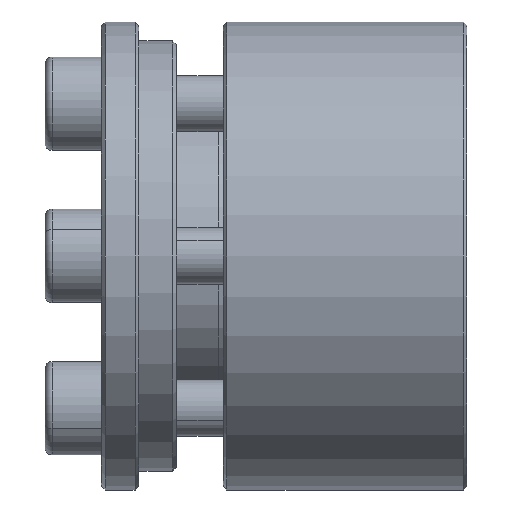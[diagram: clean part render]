
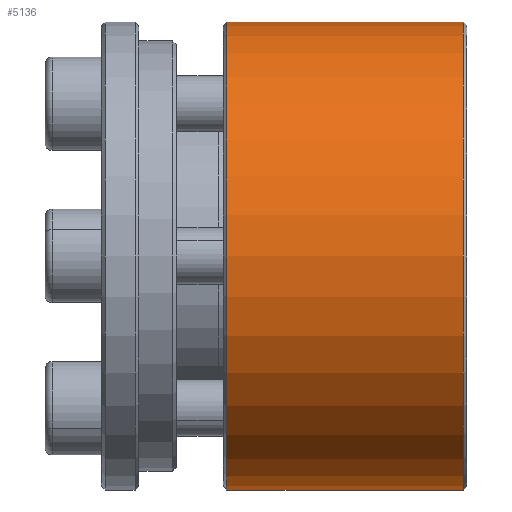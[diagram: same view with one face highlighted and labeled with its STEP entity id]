
A CAD part, front view. The second image highlights one B-rep face of the part: STEP entity #5136.
In plain terms, the highlighted cylindrical face has radius 24.96 mm (diameter 49.92 mm), a partial arc.
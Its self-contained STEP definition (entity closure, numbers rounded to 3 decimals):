
#437 = DIRECTION ( 'NONE',  ( -1., 0., 0. ) ) ;
#460 = ORIENTED_EDGE ( 'NONE', *, *, #4682, .T. ) ;
#1176 = CYLINDRICAL_SURFACE ( 'NONE', #6825, 24.96 ) ;
#1383 = EDGE_LOOP ( 'NONE', ( #5397, #2042, #460, #4213 ) ) ;
#1529 = EDGE_CURVE ( 'NONE', #3599, #4381, #6051, .T. ) ;
#1826 = CARTESIAN_POINT ( 'NONE',  ( -92.766, 26.04, 24.96 ) ) ;
#2042 = ORIENTED_EDGE ( 'NONE', *, *, #2163, .T. ) ;
#2163 = EDGE_CURVE ( 'NONE', #2642, #3507, #2384, .T. ) ;
#2178 = CARTESIAN_POINT ( 'NONE',  ( -67.166, 26.04, 0. ) ) ;
#2384 = CIRCLE ( 'NONE', #2964, 24.96 ) ;
#2518 = CARTESIAN_POINT ( 'NONE',  ( -67.166, 26.04, 24.96 ) ) ;
#2642 = VERTEX_POINT ( 'NONE', #3897 ) ;
#2694 = DIRECTION ( 'NONE',  ( 0., 0., 1. ) ) ;
#2949 = VECTOR ( 'NONE', #3382, 1000. ) ;
#2964 = AXIS2_PLACEMENT_3D ( 'NONE', #2178, #7093, #2694 ) ;
#2975 = CARTESIAN_POINT ( 'NONE',  ( -92.366, 26.04, 0. ) ) ;
#3193 = AXIS2_PLACEMENT_3D ( 'NONE', #2975, #4134, #6317 ) ;
#3339 = DIRECTION ( 'NONE',  ( 0., 0., 1. ) ) ;
#3382 = DIRECTION ( 'NONE',  ( -1., 0., 0. ) ) ;
#3507 = VERTEX_POINT ( 'NONE', #2518 ) ;
#3599 = VERTEX_POINT ( 'NONE', #6034 ) ;
#3897 = CARTESIAN_POINT ( 'NONE',  ( -67.166, 26.04, -24.96 ) ) ;
#4134 = DIRECTION ( 'NONE',  ( 1., 0., 0. ) ) ;
#4213 = ORIENTED_EDGE ( 'NONE', *, *, #1529, .T. ) ;
#4381 = VERTEX_POINT ( 'NONE', #6346 ) ;
#4407 = FACE_OUTER_BOUND ( 'NONE', #1383, .T. ) ;
#4682 = EDGE_CURVE ( 'NONE', #3507, #3599, #5602, .T. ) ;
#4899 = EDGE_CURVE ( 'NONE', #2642, #4381, #5334, .T. ) ;
#5136 = ADVANCED_FACE ( 'NONE', ( #4407 ), #1176, .T. ) ;
#5334 = LINE ( 'NONE', #5983, #6144 ) ;
#5397 = ORIENTED_EDGE ( 'NONE', *, *, #4899, .F. ) ;
#5516 = DIRECTION ( 'NONE',  ( -1., 0., 0. ) ) ;
#5557 = CARTESIAN_POINT ( 'NONE',  ( -92.766, 26.04, 0. ) ) ;
#5602 = LINE ( 'NONE', #1826, #2949 ) ;
#5983 = CARTESIAN_POINT ( 'NONE',  ( -92.766, 26.04, -24.96 ) ) ;
#6034 = CARTESIAN_POINT ( 'NONE',  ( -92.366, 26.04, 24.96 ) ) ;
#6051 = CIRCLE ( 'NONE', #3193, 24.96 ) ;
#6144 = VECTOR ( 'NONE', #437, 1000. ) ;
#6317 = DIRECTION ( 'NONE',  ( 0., 0., -1. ) ) ;
#6346 = CARTESIAN_POINT ( 'NONE',  ( -92.366, 26.04, -24.96 ) ) ;
#6825 = AXIS2_PLACEMENT_3D ( 'NONE', #5557, #5516, #3339 ) ;
#7093 = DIRECTION ( 'NONE',  ( -1., 0., 0. ) ) ;
